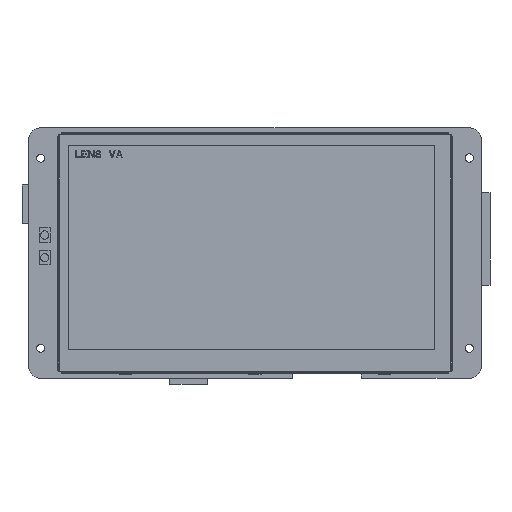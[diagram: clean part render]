
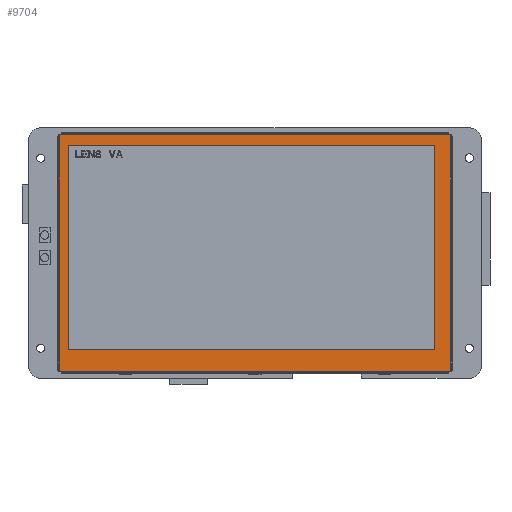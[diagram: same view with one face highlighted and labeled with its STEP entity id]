
A CAD part, front view. The second image highlights one B-rep face of the part: STEP entity #9704.
In plain terms, the highlighted planar face has unit normal (0, -1, 0) as drawn and (0, 1, 0) by its records, which use the part's own axes.
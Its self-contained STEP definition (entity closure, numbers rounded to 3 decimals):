
#7915=DIRECTION('',(0.,0.,1.));
#7916=VECTOR('',#7915,99.7);
#7917=CARTESIAN_POINT('',(-82.3,1.775,-49.85));
#7918=LINE('',#7917,#7916);
#7919=DIRECTION('',(-1.,0.,0.));
#7920=VECTOR('',#7919,164.6);
#7921=CARTESIAN_POINT('',(82.3,1.775,-49.85));
#7922=LINE('',#7921,#7920);
#7923=DIRECTION('',(0.,0.,-1.));
#7924=VECTOR('',#7923,99.7);
#7925=CARTESIAN_POINT('',(82.3,1.775,49.85));
#7926=LINE('',#7925,#7924);
#7927=DIRECTION('',(1.,0.,0.));
#7928=VECTOR('',#7927,164.6);
#7929=CARTESIAN_POINT('',(-82.3,1.775,49.85));
#7930=LINE('',#7929,#7928);
#7931=DIRECTION('',(0.,0.,1.));
#7932=VECTOR('',#7931,85.92);
#7933=CARTESIAN_POINT('',(-78.53,1.775,-45.22));
#7934=LINE('',#7933,#7932);
#7935=DIRECTION('',(1.,0.,0.));
#7936=VECTOR('',#7935,154.08);
#7937=CARTESIAN_POINT('',(-78.53,1.775,40.7));
#7938=LINE('',#7937,#7936);
#7939=DIRECTION('',(0.,0.,-1.));
#7940=VECTOR('',#7939,85.92);
#7941=CARTESIAN_POINT('',(75.55,1.775,40.7));
#7942=LINE('',#7941,#7940);
#7943=DIRECTION('',(-1.,0.,0.));
#7944=VECTOR('',#7943,154.08);
#7945=CARTESIAN_POINT('',(75.55,1.775,-45.22));
#7946=LINE('',#7945,#7944);
#9187=CARTESIAN_POINT('',(-82.3,1.775,-49.85));
#9188=CARTESIAN_POINT('',(-82.3,1.775,49.85));
#9189=VERTEX_POINT('',#9187);
#9190=VERTEX_POINT('',#9188);
#9191=CARTESIAN_POINT('',(82.3,1.775,49.85));
#9192=VERTEX_POINT('',#9191);
#9193=CARTESIAN_POINT('',(82.3,1.775,-49.85));
#9194=VERTEX_POINT('',#9193);
#9403=CARTESIAN_POINT('',(-78.53,1.775,-45.22));
#9404=CARTESIAN_POINT('',(-78.53,1.775,40.7));
#9405=VERTEX_POINT('',#9403);
#9406=VERTEX_POINT('',#9404);
#9407=CARTESIAN_POINT('',(75.55,1.775,40.7));
#9408=VERTEX_POINT('',#9407);
#9409=CARTESIAN_POINT('',(75.55,1.775,-45.22));
#9410=VERTEX_POINT('',#9409);
#9683=CARTESIAN_POINT('',(0.,1.775,0.));
#9684=DIRECTION('',(0.,1.,0.));
#9685=DIRECTION('',(1.,0.,0.));
#9686=AXIS2_PLACEMENT_3D('',#9683,#9684,#9685);
#9687=PLANE('',#9686);
#9688=ORIENTED_EDGE('',*,*,#9635,.F.);
#9689=ORIENTED_EDGE('',*,*,#9650,.F.);
#9690=ORIENTED_EDGE('',*,*,#9664,.F.);
#9691=ORIENTED_EDGE('',*,*,#9677,.F.);
#9692=EDGE_LOOP('',(#9688,#9689,#9690,#9691));
#9693=FACE_OUTER_BOUND('',#9692,.F.);
#9695=ORIENTED_EDGE('',*,*,#9694,.T.);
#9697=ORIENTED_EDGE('',*,*,#9696,.T.);
#9699=ORIENTED_EDGE('',*,*,#9698,.T.);
#9701=ORIENTED_EDGE('',*,*,#9700,.T.);
#9702=EDGE_LOOP('',(#9695,#9697,#9699,#9701));
#9703=FACE_BOUND('',#9702,.F.);
#9635=EDGE_CURVE('',#9189,#9190,#7918,.T.);
#9650=EDGE_CURVE('',#9194,#9189,#7922,.T.);
#9664=EDGE_CURVE('',#9192,#9194,#7926,.T.);
#9677=EDGE_CURVE('',#9190,#9192,#7930,.T.);
#9694=EDGE_CURVE('',#9405,#9406,#7934,.T.);
#9696=EDGE_CURVE('',#9406,#9408,#7938,.T.);
#9698=EDGE_CURVE('',#9408,#9410,#7942,.T.);
#9700=EDGE_CURVE('',#9410,#9405,#7946,.T.);
#9704=ADVANCED_FACE('',(#9693,#9703),#9687,.T.);
